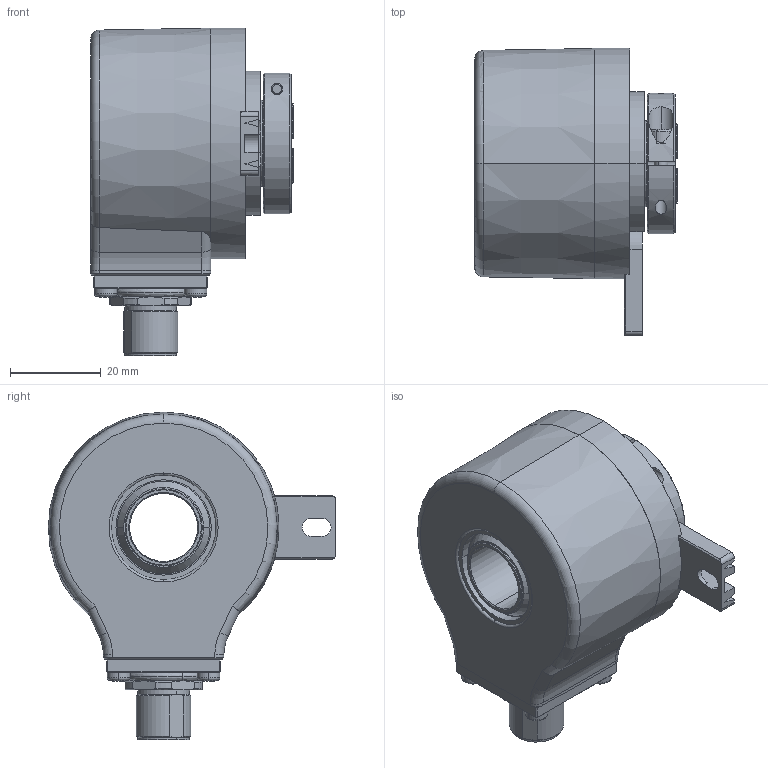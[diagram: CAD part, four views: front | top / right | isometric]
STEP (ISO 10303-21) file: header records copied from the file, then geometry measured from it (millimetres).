
FILE_DESCRIPTION (( 'STEP AP203' ), '1' );
FILE_NAME ('8.5020.287R.XXXX.STEP', '2017-04-05T12:15:56', ( '' ), ( '' ), 'SwSTEP 2.0', 'SolidWorks 2017', '' );
FILE_SCHEMA (( 'CONFIG_CONTROL_DESIGN' ));
Length unit declared in the file: millimetre
Products named in the file (1): 8.5020.287R.XXXX
Bounding box: 44.7 x 63.3 x 72.2 mm (x, y, z)
Surface area: 39112 mm2 (no closed solid volume)
Topology: 0 solids, 23 shells, 809 faces, 1989 edges, 1224 vertices
Faces by surface type: plane 280, cylinder 248, cone 138, torus 69, sphere 48, bspline 26
Entity records: 25647 total; most frequent: CARTESIAN_POINT 6862, DIRECTION 4096, ORIENTED_EDGE 3754, EDGE_CURVE 1885, AXIS2_PLACEMENT_3D 1656, VERTEX_POINT 1170, EDGE_LOOP 937, CIRCLE 872
